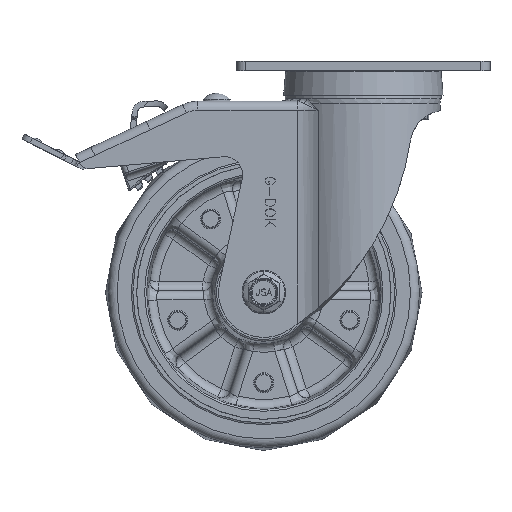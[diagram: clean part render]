
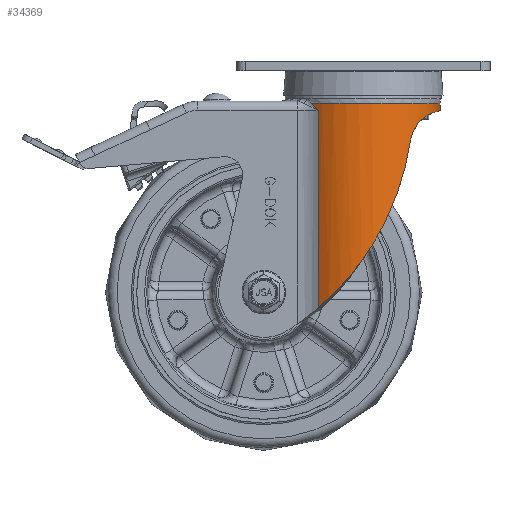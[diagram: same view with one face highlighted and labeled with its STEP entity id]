
A CAD part, front view. The second image highlights one B-rep face of the part: STEP entity #34369.
In plain terms, the highlighted cylindrical face has radius 42.5 mm (diameter 85 mm), a partial arc.
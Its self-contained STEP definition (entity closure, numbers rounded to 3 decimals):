
#936=B_SPLINE_CURVE_WITH_KNOTS('',3,(#50654,#50655,#50656,#50657,#50658,
#50659,#50660,#50661,#50662,#50663,#50664,#50665,#50666,#50667),
 .UNSPECIFIED.,.F.,.F.,(4,1,1,1,1,1,1,1,1,1,1,4),(52.105,53.592,
56.564,57.679,58.051,58.794,59.166,
59.537,61.024,61.767,62.138,62.51),
 .UNSPECIFIED.);
#938=B_SPLINE_CURVE_WITH_KNOTS('',3,(#51067,#51068,#51069,#51070,#51071,
#51072,#51073,#51074,#51075,#51076,#51077,#51078,#51079,#51080,#51081,#51082,
#51083,#51084,#51085,#51086,#51087,#51088,#51089,#51090,#51091,#51092,#51093,
#51094,#51095),.UNSPECIFIED.,.F.,.F.,(4,1,1,1,1,1,1,1,1,1,1,1,1,1,1,1,1,
1,1,1,1,1,1,1,1,1,4),(4.971,5.599,5.914,
6.071,6.228,6.542,6.856,7.013,
7.17,7.485,8.741,9.16,9.579,
9.998,10.312,11.255,11.883,12.04,
12.198,12.355,12.512,12.747,12.826,
13.14,13.297,13.454,13.769),
 .UNSPECIFIED.);
#940=B_SPLINE_CURVE_WITH_KNOTS('',3,(#51169,#51170,#51171,#51172,#51173,
#51174,#51175,#51176,#51177,#51178,#51179,#51180,#51181,#51182),
 .UNSPECIFIED.,.F.,.F.,(4,1,1,1,1,1,1,1,1,1,1,4),(4.103,4.474,
4.846,5.589,6.332,6.704,7.075,
7.447,7.819,8.562,11.534,14.507),
 .UNSPECIFIED.);
#969=B_SPLINE_CURVE_WITH_KNOTS('',3,(#52175,#52176,#52177,#52178,#52179,
#52180,#52181),.UNSPECIFIED.,.F.,.F.,(4,2,1,4),(-1.622,-1.62,
-1.179,-0.985),.UNSPECIFIED.);
#970=B_SPLINE_CURVE_WITH_KNOTS('',3,(#52242,#52243,#52244,#52245,#52246,
#52247,#52248),.UNSPECIFIED.,.F.,.F.,(4,1,2,4),(-0.635,-0.441,
0.,0.002),.UNSPECIFIED.);
#4528=FACE_OUTER_BOUND('',#6577,.T.);
#6577=EDGE_LOOP('',(#31975,#31976,#31977,#31978,#31979,#31980,#31981,#31982));
#7363=LINE('',#51862,#10183);
#7378=LINE('',#51894,#10198);
#10183=VECTOR('',#39472,10.);
#10198=VECTOR('',#39493,10.);
#12462=CIRCLE('',#35014,42.499);
#14364=VERTEX_POINT('',#50651);
#14365=VERTEX_POINT('',#50653);
#14367=VERTEX_POINT('',#51066);
#14369=VERTEX_POINT('',#51168);
#14434=VERTEX_POINT('',#51842);
#14435=VERTEX_POINT('',#51843);
#14438=VERTEX_POINT('',#51859);
#14453=VERTEX_POINT('',#51891);
#18012=EDGE_CURVE('',#14365,#14364,#936,.T.);
#18015=EDGE_CURVE('',#14367,#14365,#938,.T.);
#18018=EDGE_CURVE('',#14369,#14367,#940,.T.);
#18122=EDGE_CURVE('',#14434,#14435,#12462,.T.);
#18127=EDGE_CURVE('',#14438,#14364,#7363,.T.);
#18143=EDGE_CURVE('',#14369,#14453,#7378,.T.);
#18196=EDGE_CURVE('',#14453,#14435,#969,.T.);
#18200=EDGE_CURVE('',#14434,#14438,#970,.T.);
#31975=ORIENTED_EDGE('',*,*,#18122,.T.);
#31976=ORIENTED_EDGE('',*,*,#18196,.F.);
#31977=ORIENTED_EDGE('',*,*,#18143,.F.);
#31978=ORIENTED_EDGE('',*,*,#18018,.T.);
#31979=ORIENTED_EDGE('',*,*,#18015,.T.);
#31980=ORIENTED_EDGE('',*,*,#18012,.T.);
#31981=ORIENTED_EDGE('',*,*,#18127,.F.);
#31982=ORIENTED_EDGE('',*,*,#18200,.F.);
#32447=CYLINDRICAL_SURFACE('',#37453,42.5);
#34369=ADVANCED_FACE('',(#4528),#32447,.T.);
#35014=AXIS2_PLACEMENT_3D('',#51844,#39464,#39465);
#37453=AXIS2_PLACEMENT_3D('',#70550,#46383,#46384);
#39464=DIRECTION('center_axis',(0.,0.,-1.));
#39465=DIRECTION('ref_axis',(1.,0.,0.));
#39472=DIRECTION('',(0.,0.,-1.));
#39493=DIRECTION('',(0.,0.,1.));
#46383=DIRECTION('center_axis',(0.,0.,
-1.));
#46384=DIRECTION('ref_axis',(1.,0.,0.));
#50651=CARTESIAN_POINT('',(-24.853,34.476,-136.105));
#50653=CARTESIAN_POINT('',(25.956,33.653,-44.051));
#50654=CARTESIAN_POINT('Ctrl Pts',(25.956,33.653,-44.051));
#50655=CARTESIAN_POINT('Ctrl Pts',(25.206,34.232,-49.143));
#50656=CARTESIAN_POINT('Ctrl Pts',(22.154,36.48,-64.424));
#50657=CARTESIAN_POINT('Ctrl Pts',(15.325,40.098,-82.878));
#50658=CARTESIAN_POINT('Ctrl Pts',(7.99,41.809,-96.407));
#50659=CARTESIAN_POINT('Ctrl Pts',(4.042,42.345,-102.895));
#50660=CARTESIAN_POINT('Ctrl Pts',(1.264,42.523,-107.088));
#50661=CARTESIAN_POINT('Ctrl Pts',(-1.613,42.488,-111.1));
#50662=CARTESIAN_POINT('Ctrl Pts',(-6.278,42.195,-117.289));
#50663=CARTESIAN_POINT('Ctrl Pts',(-12.539,40.937,-124.515));
#50664=CARTESIAN_POINT('Ctrl Pts',(-18.82,38.19,-130.688));
#50665=CARTESIAN_POINT('Ctrl Pts',(-22.175,36.296,-133.773));
#50666=CARTESIAN_POINT('Ctrl Pts',(-23.959,35.121,-135.339));
#50667=CARTESIAN_POINT('Ctrl Pts',(-24.853,34.476,-136.105));
#51066=CARTESIAN_POINT('',(25.956,-33.653,-44.051));
#51067=CARTESIAN_POINT('Ctrl Pts',(25.956,-33.653,-44.051));
#51068=CARTESIAN_POINT('Ctrl Pts',(26.273,-33.409,-41.9));
#51069=CARTESIAN_POINT('Ctrl Pts',(27.323,-32.596,-38.703));
#51070=CARTESIAN_POINT('Ctrl Pts',(29.122,-30.971,-35.777));
#51071=CARTESIAN_POINT('Ctrl Pts',(30.219,-29.893,-34.331));
#51072=CARTESIAN_POINT('Ctrl Pts',(31.438,-28.626,-32.932));
#51073=CARTESIAN_POINT('Ctrl Pts',(33.065,-26.759,-31.434));
#51074=CARTESIAN_POINT('Ctrl Pts',(34.573,-24.752,-30.352));
#51075=CARTESIAN_POINT('Ctrl Pts',(35.673,-23.119,-29.678));
#51076=CARTESIAN_POINT('Ctrl Pts',(36.759,-21.37,-29.075));
#51077=CARTESIAN_POINT('Ctrl Pts',(39.581,-16.272,-27.788));
#51078=CARTESIAN_POINT('Ctrl Pts',(41.813,-9.357,-27.355));
#51079=CARTESIAN_POINT('Ctrl Pts',(42.514,-2.089,-27.224));
#51080=CARTESIAN_POINT('Ctrl Pts',(42.522,2.086,-27.229));
#51081=CARTESIAN_POINT('Ctrl Pts',(42.12,6.089,-27.292));
#51082=CARTESIAN_POINT('Ctrl Pts',(41.002,11.901,-27.52));
#51083=CARTESIAN_POINT('Ctrl Pts',(38.666,18.264,-28.118));
#51084=CARTESIAN_POINT('Ctrl Pts',(35.697,23.174,-29.601));
#51085=CARTESIAN_POINT('Ctrl Pts',(33.981,25.54,-30.778));
#51086=CARTESIAN_POINT('Ctrl Pts',(33.042,26.745,-31.499));
#51087=CARTESIAN_POINT('Ctrl Pts',(32.086,27.882,-32.335));
#51088=CARTESIAN_POINT('Ctrl Pts',(30.976,29.116,-33.439));
#51089=CARTESIAN_POINT('Ctrl Pts',(30.073,30.039,-34.51));
#51090=CARTESIAN_POINT('Ctrl Pts',(28.996,31.084,-35.981));
#51091=CARTESIAN_POINT('Ctrl Pts',(28.098,31.896,-37.449));
#51092=CARTESIAN_POINT('Ctrl Pts',(27.225,32.639,-39.354));
#51093=CARTESIAN_POINT('Ctrl Pts',(26.488,33.241,-41.368));
#51094=CARTESIAN_POINT('Ctrl Pts',(26.114,33.531,-42.976));
#51095=CARTESIAN_POINT('Ctrl Pts',(25.956,33.653,-44.051));
#51168=CARTESIAN_POINT('',(-24.853,-34.476,-136.105));
#51169=CARTESIAN_POINT('Ctrl Pts',(-24.853,-34.476,-136.105));
#51170=CARTESIAN_POINT('Ctrl Pts',(-23.959,-35.121,
-135.339));
#51171=CARTESIAN_POINT('Ctrl Pts',(-22.175,-36.296,
-133.773));
#51172=CARTESIAN_POINT('Ctrl Pts',(-18.82,-38.191,
-130.69));
#51173=CARTESIAN_POINT('Ctrl Pts',(-14.332,-40.151,
-126.273));
#51174=CARTESIAN_POINT('Ctrl Pts',(-9.858,-41.406,
-121.374));
#51175=CARTESIAN_POINT('Ctrl Pts',(-6.416,-42.039,
-117.287));
#51176=CARTESIAN_POINT('Ctrl Pts',(-3.947,-42.339,
-114.192));
#51177=CARTESIAN_POINT('Ctrl Pts',(-1.612,-42.489,
-111.101));
#51178=CARTESIAN_POINT('Ctrl Pts',(1.265,-42.521,-107.086));
#51179=CARTESIAN_POINT('Ctrl Pts',(8.897,-42.042,-95.572));
#51180=CARTESIAN_POINT('Ctrl Pts',(19.282,-38.516,-74.591));
#51181=CARTESIAN_POINT('Ctrl Pts',(24.456,-34.81,-54.236));
#51182=CARTESIAN_POINT('Ctrl Pts',(25.956,-33.653,-44.051));
#51842=CARTESIAN_POINT('',(-28.542,31.489,-23.077));
#51843=CARTESIAN_POINT('',(-28.542,-31.489,-23.077));
#51844=CARTESIAN_POINT('Origin',(0.,0.,
-23.077));
#51859=CARTESIAN_POINT('',(-24.853,34.476,-26.974));
#51862=CARTESIAN_POINT('',(-24.853,34.476,-4.974));
#51891=CARTESIAN_POINT('',(-24.853,-34.476,-26.974));
#51894=CARTESIAN_POINT('',(-24.853,-34.476,-4.974));
#52175=CARTESIAN_POINT('Ctrl Pts',(-24.853,-34.476,-26.974));
#52176=CARTESIAN_POINT('Ctrl Pts',(-24.856,-34.474,
-26.971));
#52177=CARTESIAN_POINT('Ctrl Pts',(-24.859,-34.471,
-26.967));
#52178=CARTESIAN_POINT('Ctrl Pts',(-25.731,-33.843,
-26.042));
#52179=CARTESIAN_POINT('Ctrl Pts',(-26.959,-32.886,
-24.702));
#52180=CARTESIAN_POINT('Ctrl Pts',(-28.172,-31.825,
-23.448));
#52181=CARTESIAN_POINT('Ctrl Pts',(-28.542,-31.489,-23.077));
#52242=CARTESIAN_POINT('Ctrl Pts',(-28.542,31.489,-23.077));
#52243=CARTESIAN_POINT('Ctrl Pts',(-28.172,31.825,-23.448));
#52244=CARTESIAN_POINT('Ctrl Pts',(-26.959,32.886,-24.702));
#52245=CARTESIAN_POINT('Ctrl Pts',(-25.731,33.843,-26.042));
#52246=CARTESIAN_POINT('Ctrl Pts',(-24.859,34.471,-26.967));
#52247=CARTESIAN_POINT('Ctrl Pts',(-24.856,34.474,-26.971));
#52248=CARTESIAN_POINT('Ctrl Pts',(-24.853,34.476,-26.974));
#70550=CARTESIAN_POINT('Origin',(0.,0.,-4.974));
